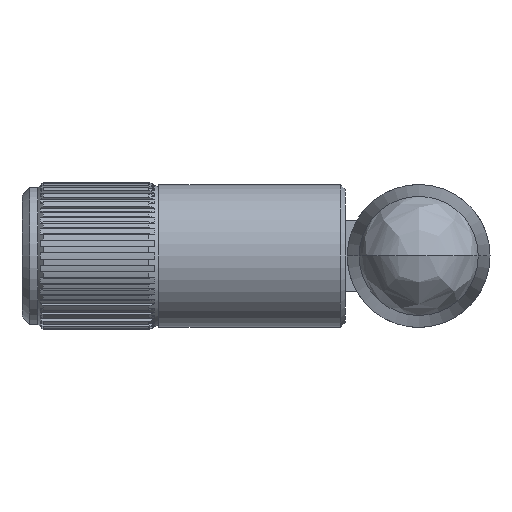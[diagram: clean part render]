
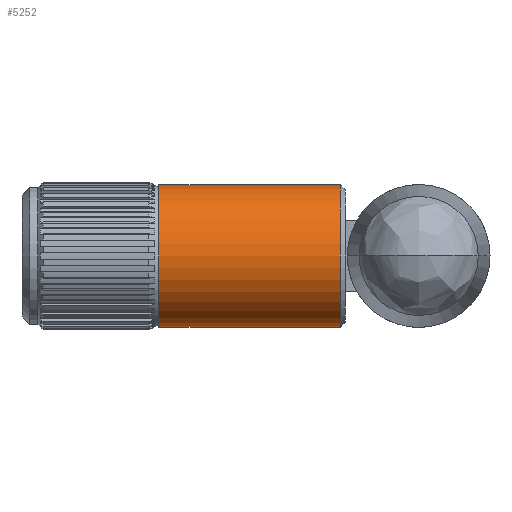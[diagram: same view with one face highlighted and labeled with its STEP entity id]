
A CAD part, left-side view. The second image highlights one B-rep face of the part: STEP entity #5252.
In plain terms, the highlighted cylindrical face has radius 4.675 mm (diameter 9.35 mm), a partial arc.
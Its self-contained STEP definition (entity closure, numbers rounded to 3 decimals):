
#2826=CARTESIAN_POINT('',(193.52,81.685,0.));
#2827=DIRECTION('',(-1.,0.,0.));
#2828=DIRECTION('',(0.,-1.,0.));
#2829=AXIS2_PLACEMENT_3D('',#2826,#2827,#2828);
#2831=DIRECTION('',(1.,0.,0.));
#2832=VECTOR('',#2831,11.904);
#2833=CARTESIAN_POINT('',(193.52,86.36,
0.));
#2834=LINE('',#2833,#2832);
#2835=CARTESIAN_POINT('',(205.425,81.685,0.));
#2836=DIRECTION('',(1.,0.,0.));
#2837=DIRECTION('',(0.,1.,0.));
#2838=AXIS2_PLACEMENT_3D('',#2835,#2836,#2837);
#2840=DIRECTION('',(-1.,0.,0.));
#2841=VECTOR('',#2840,11.904);
#2842=CARTESIAN_POINT('',(205.425,77.01,0.));
#2843=LINE('',#2842,#2841);
#3220=CARTESIAN_POINT('',(205.425,86.36,0.));
#3221=CARTESIAN_POINT('',(205.425,77.01,0.));
#3222=VERTEX_POINT('',#3220);
#3223=VERTEX_POINT('',#3221);
#3812=CARTESIAN_POINT('',(193.52,77.01,0.));
#3813=CARTESIAN_POINT('',(193.52,86.36,0.));
#3814=VERTEX_POINT('',#3812);
#3815=VERTEX_POINT('',#3813);
#5241=CARTESIAN_POINT('',(120.951,81.685,0.));
#5242=DIRECTION('',(1.,0.,0.));
#5243=DIRECTION('',(0.,-1.,0.));
#5244=AXIS2_PLACEMENT_3D('',#5241,#5242,#5243);
#5245=CYLINDRICAL_SURFACE('',#5244,4.675);
#5246=ORIENTED_EDGE('',*,*,#5235,.T.);
#5247=ORIENTED_EDGE('',*,*,#5187,.T.);
#5248=ORIENTED_EDGE('',*,*,#5168,.T.);
#5249=ORIENTED_EDGE('',*,*,#5184,.T.);
#5250=EDGE_LOOP('',(#5246,#5247,#5248,#5249));
#5251=FACE_OUTER_BOUND('',#5250,.F.);
#5252=ADVANCED_FACE('',(#5251),#5245,.T.);
#2830=CIRCLE('',#2829,4.675);
#2839=CIRCLE('',#2838,4.675);
#5168=EDGE_CURVE('',#3222,#3223,#2839,.T.);
#5184=EDGE_CURVE('',#3223,#3814,#2843,.T.);
#5187=EDGE_CURVE('',#3815,#3222,#2834,.T.);
#5235=EDGE_CURVE('',#3814,#3815,#2830,.T.);
